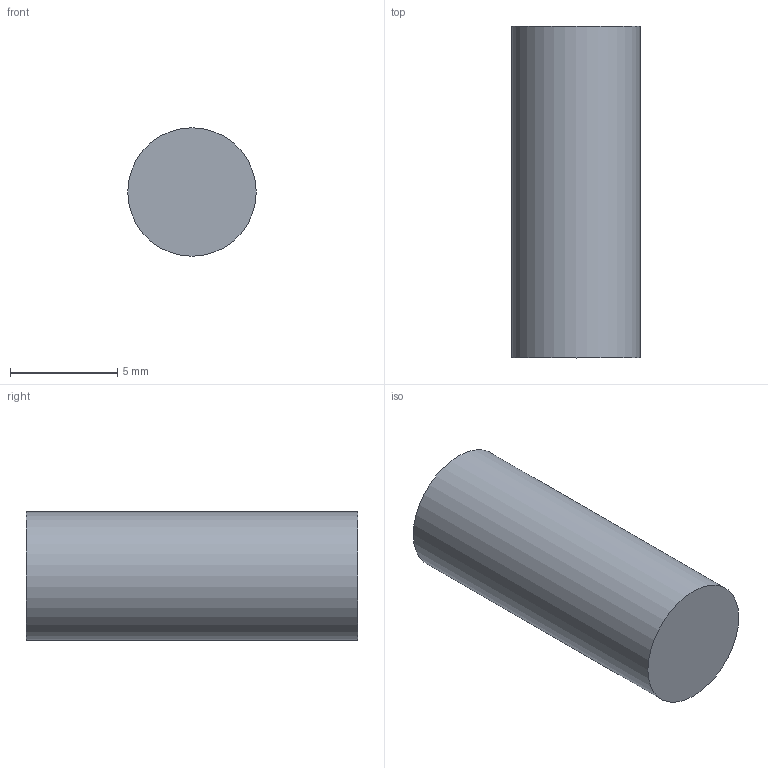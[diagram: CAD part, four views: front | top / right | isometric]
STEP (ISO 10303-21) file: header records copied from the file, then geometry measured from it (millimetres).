
FILE_DESCRIPTION(('Open CASCADE Model'),'2;1');
FILE_NAME('Open CASCADE Shape Model','2026-10-17T21:54:42',('Author'),( 'Open CASCADE'),'Open CASCADE STEP processor 7.9','Open CASCADE 7.9' ,'Unknown');
FILE_SCHEMA(('AUTOMOTIVE_DESIGN { 1 0 10303 214 1 1 1 1 }'));
Length unit declared in the file: millimetre
Products named in the file (1): Open CASCADE STEP translator 7.9 10
Bounding box: 6 x 15.5 x 6 mm (x, y, z)
Volume: 438.3 mm3; surface area: 348.7 mm2
Topology: 1 solids, 1 shells, 3 faces, 3 edges, 2 vertices
Faces by surface type: plane 2, cylinder 1
Full cylindrical faces by diameter (mm): 6 x1
Entity records: 108 total; most frequent: DIRECTION 19, CARTESIAN_POINT 15, AXIS2_PLACEMENT_3D 6, ORIENTED_EDGE 6, PCURVE 6, DEFINITIONAL_REPRESENTATION 6, LINE 5, VECTOR 5
